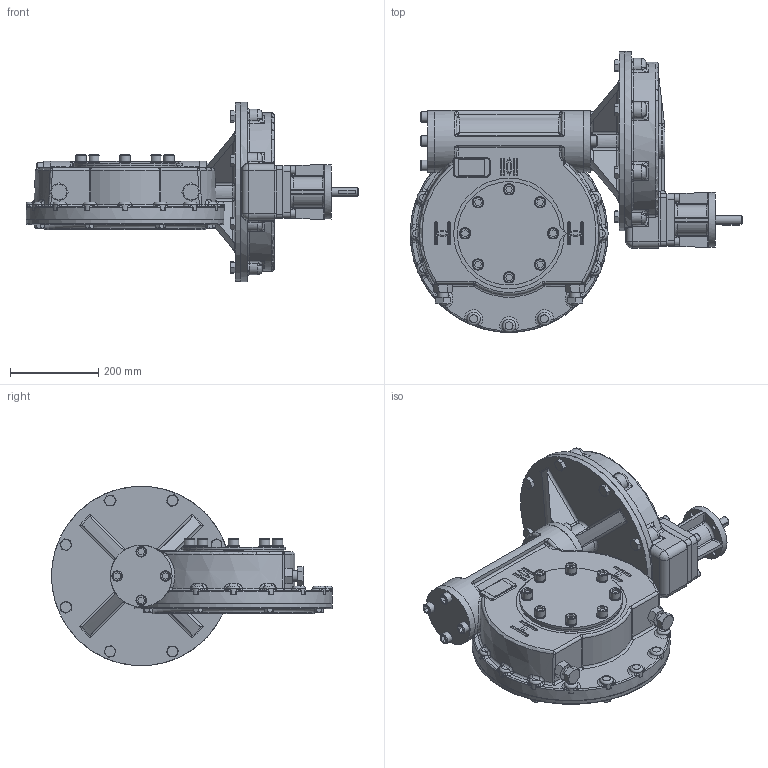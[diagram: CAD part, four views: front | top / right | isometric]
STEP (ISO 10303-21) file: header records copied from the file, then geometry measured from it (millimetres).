
FILE_DESCRIPTION(/* description */ ('Unknown'),/* implementation_level */ '2;1');
FILE_NAME(/* name */ 'PUB-IW7FBIRL-F10-F30',/* time_stamp */ '2016-06-28T13:12:44+01:00',/* author */ ('Unknown'),/* organization */ ('Unknown'),/* preprocessor_version */ 'ST-DEVELOPER v16',/* originating_system */ 'DEX',/* authorisation */ $);
FILE_SCHEMA (('AUTOMOTIVE_DESIGN {1 0 10303 214 3 1 1}'));
Products named in the file (1): PUB-IW7FBIRL-F10-F30
Bounding box: 754.52 x 638.63 x 408 mm (x, y, z)
Surface area: 1359004.8 mm2 (no closed solid volume)
Topology: 0 solids, 89 shells, 1363 faces, 4431 edges, 3045 vertices
Faces by surface type: plane 485, cylinder 279, bspline 242, cone 169, torus 154, sphere 34
Full cylindrical faces by diameter (mm): 10.5 x4, 12.5 x8, 17.294 x8, 18 x4, 20 x1, 24 x18, 50 x1, 70.05 x1, 125 x1, 140 x3, 170 x1, 230 x1, 251.5 x1, 408 x1
Entity records: 74042 total; most frequent: CARTESIAN_POINT 38710, ORIENTED_EDGE 6885, DIRECTION 6341, EDGE_CURVE 4192, VERTEX_POINT 2999, AXIS2_PLACEMENT_3D 2391, EDGE_LOOP 1617, FACE_BOUND 1617
